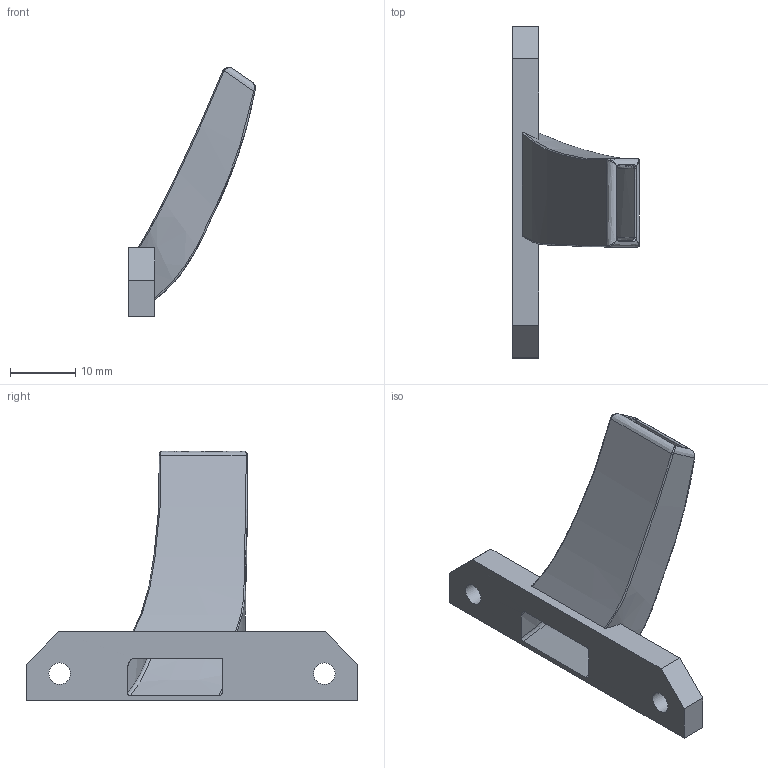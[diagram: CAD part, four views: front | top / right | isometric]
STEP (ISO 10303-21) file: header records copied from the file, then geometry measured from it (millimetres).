
FILE_DESCRIPTION(/* description */ (''),/* implementation_level */ '2;1');
FILE_NAME(/* name */ 'C:/Users/Martin/Documents/icarus-2.1/icarus-2-current-step-files/4-fan-ducts/icarus-fan-duct-rapido-uhf-1.0.step',/* time_stamp */ '2022-08-22T19:05:43+02:00',/* author */ (''),/* organization */ (''),/* preprocessor_version */ 'ST-DEVELOPER v19',/* originating_system */ 'Autodesk Translation Framework v11.7.0.108',/* authorisation */ '');
FILE_SCHEMA (('AUTOMOTIVE_DESIGN { 1 0 10303 214 3 1 1 }'));
Length unit declared in the file: millimetre
Products named in the file (1): icarus-fan-duct-2.1
Bounding box: 19.42 x 50.8 x 38.18 mm (x, y, z)
Volume: 2974 mm3; surface area: 4049.6 mm2
Topology: 1 solids, 1 shells, 49 faces, 160 edges, 108 vertices
Faces by surface type: bspline 37, plane 10, cylinder 2
Full cylindrical faces by diameter (mm): 3.3 x2
Entity records: 3816 total; most frequent: CARTESIAN_POINT 2683, ORIENTED_EDGE 312, EDGE_CURVE 156, B_SPLINE_CURVE_WITH_KNOTS 115, VERTEX_POINT 108, DIRECTION 87, EDGE_LOOP 54, FACE_OUTER_BOUND 49
